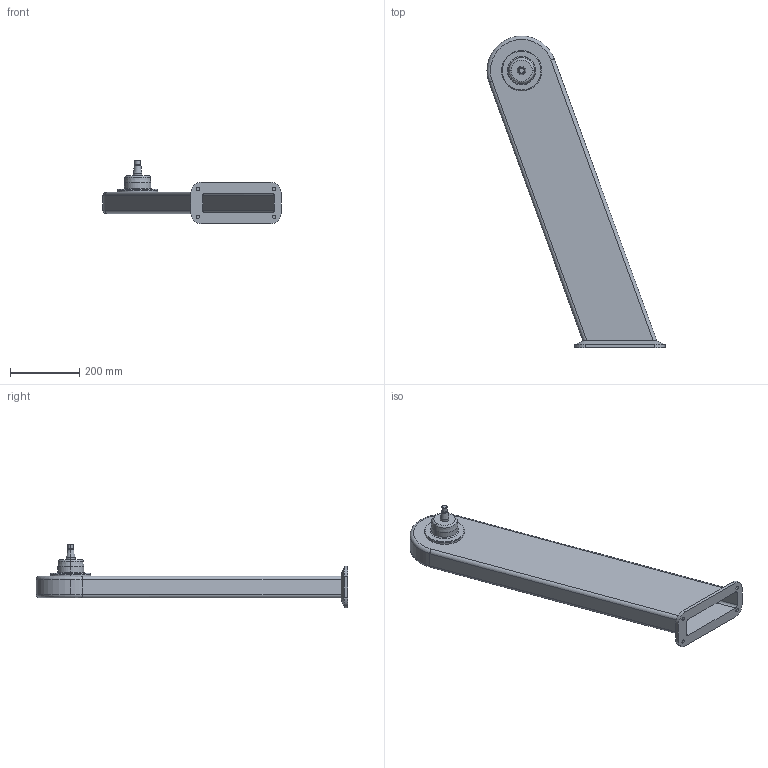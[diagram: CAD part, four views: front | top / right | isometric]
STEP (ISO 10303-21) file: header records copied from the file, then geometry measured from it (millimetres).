
FILE_DESCRIPTION (( 'STEP AP214' ), '1' );
FILE_NAME ('WP800_H800_-20.STEP', '2014-06-26T12:53:13', ( '' ), ( '' ), 'SwSTEP 2.0', 'SolidWorks 2014', '' );
FILE_SCHEMA (( 'AUTOMOTIVE_DESIGN' ));
Length unit declared in the file: millimetre
Products named in the file (1): WP800_H800_-20
Bounding box: 513.9 x 900 x 183.29 mm (x, y, z)
Volume: 1973120.5 mm3; surface area: 993936.8 mm2
Topology: 1 solids, 1 shells, 91 faces, 202 edges, 122 vertices
Faces by surface type: cylinder 38, plane 27, cone 16, torus 10
Entity records: 2546 total; most frequent: DIRECTION 470, CARTESIAN_POINT 452, ORIENTED_EDGE 404, EDGE_CURVE 202, AXIS2_PLACEMENT_3D 188, VERTEX_POINT 122, EDGE_LOOP 102, CIRCLE 96
